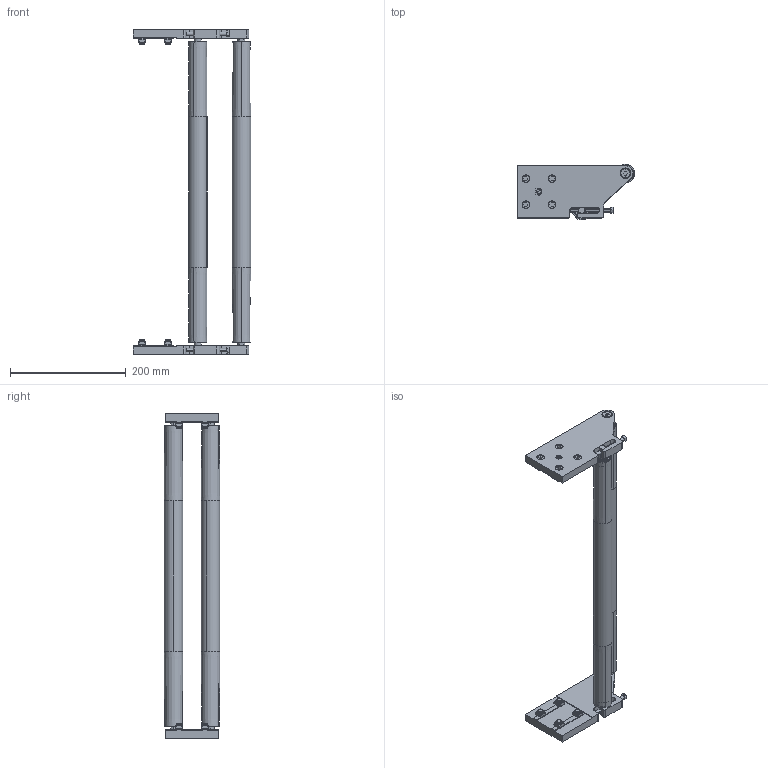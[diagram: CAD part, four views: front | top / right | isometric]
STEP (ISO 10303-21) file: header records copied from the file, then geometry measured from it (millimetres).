
FILE_DESCRIPTION (( 'STEP AP203' ), '1' );
FILE_NAME ('084.095.KP.500.STEP', '2019-10-03T07:43:56', ( 'Localadmin' ), ( 'Microsoft' ), 'SwSTEP 2.0', 'SolidWorks 2018', '' );
FILE_SCHEMA (( 'CONFIG_CONTROL_DESIGN' ));
Length unit declared in the file: millimetre
Products named in the file (12): 084.301.000 VITI ALUSIC_084.301.003; 084.302.000 DADI ALUSIC 13x13-1_084.302.004; 084.827.035; VITI TE UNI 5739_M6x70 UNI 5739; 084.827.033; VITI TSEI UNI 5933_M8x30 UNI 5933; 456.015.101_456.015.101 SX; 084.095.KP.500; 456.015.101_456.015.101 DX; 084.827.034; Circlip DIN 471 - 12 x 1_Circlip DIN 471 - 12 x 1; 084.802.036
Assembly tree (34 placements, depth 2):
  084.095.KP.500
    084.827.035
    084.827.033  x2
    456.015.101_456.015.101 SX
    456.015.101_456.015.101 DX
    084.827.034
    Circlip DIN 471 - 12 x 1_Circlip DIN 471 - 12 x 1  x4
    084.802.036  x4
    084.301.000 VITI ALUSIC_084.301.003  x8
    084.302.000 DADI ALUSIC 13x13-1_084.302.004  x8
    VITI TE UNI 5739_M6x70 UNI 5739  x2
    VITI TSEI UNI 5933_M8x30 UNI 5933  x2
Bounding box: 203 x 96.04 x 562 mm (x, y, z)
Volume: 910451.7 mm3; surface area: 347108.2 mm2
Topology: 38 solids, 42 shells, 1000 faces, 2438 edges, 1562 vertices
Faces by surface type: plane 347, cylinder 334, torus 136, bspline 99, cone 84
Entity records: 16898 total; most frequent: CARTESIAN_POINT 4154, ORIENTED_EDGE 2304, DIRECTION 2178, EDGE_CURVE 1152, AXIS2_PLACEMENT_3D 814, VERTEX_POINT 748, VECTOR 550, LINE 550
